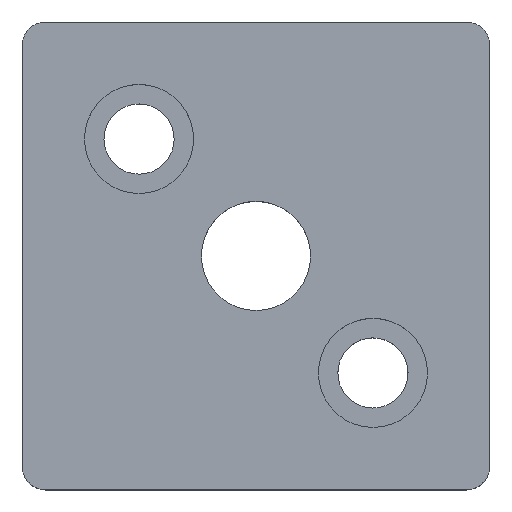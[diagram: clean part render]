
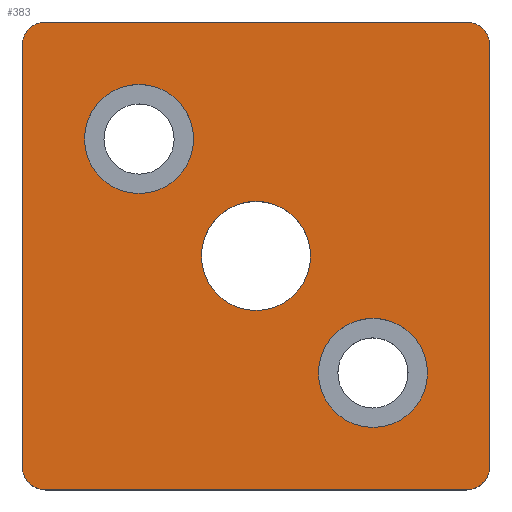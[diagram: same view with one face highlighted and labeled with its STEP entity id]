
A CAD part, top view. The second image highlights one B-rep face of the part: STEP entity #383.
In plain terms, the highlighted planar face has unit normal (0, 0, 1).
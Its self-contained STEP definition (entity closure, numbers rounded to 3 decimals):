
#1 = VERTEX_POINT ( 'NONE', #286 ) ;
#2 = DIRECTION ( 'NONE',  ( 0., 0., 1. ) ) ;
#6 = EDGE_CURVE ( 'NONE', #216, #360, #106, .T. ) ;
#9 = VERTEX_POINT ( 'NONE', #405 ) ;
#10 = EDGE_CURVE ( 'NONE', #242, #237, #420, .T. ) ;
#12 = ORIENTED_EDGE ( 'NONE', *, *, #10, .T. ) ;
#14 = DIRECTION ( 'NONE',  ( -1., 0., 0. ) ) ;
#19 = EDGE_LOOP ( 'NONE', ( #436 ) ) ;
#27 = DIRECTION ( 'NONE',  ( 1., 0., 0. ) ) ;
#29 = LINE ( 'NONE', #321, #361 ) ;
#32 = DIRECTION ( 'NONE',  ( 0., 0., 1. ) ) ;
#36 = CARTESIAN_POINT ( 'NONE',  ( -30., 27., 15. ) ) ;
#37 = DIRECTION ( 'NONE',  ( 0., 0., -1. ) ) ;
#38 = DIRECTION ( 'NONE',  ( 0., 0., 1. ) ) ;
#41 = VERTEX_POINT ( 'NONE', #227 ) ;
#45 = EDGE_CURVE ( 'NONE', #126, #439, #100, .T. ) ;
#47 = AXIS2_PLACEMENT_3D ( 'NONE', #370, #373, #334 ) ;
#52 = DIRECTION ( 'NONE',  ( 0., 1., 0. ) ) ;
#59 = ORIENTED_EDGE ( 'NONE', *, *, #488, .T. ) ;
#64 = DIRECTION ( 'NONE',  ( -1., 0., 0. ) ) ;
#66 = FACE_BOUND ( 'NONE', #214, .T. ) ;
#67 = EDGE_CURVE ( 'NONE', #41, #41, #266, .T. ) ;
#69 = DIRECTION ( 'NONE',  ( 0., -1., 0. ) ) ;
#72 = EDGE_CURVE ( 'NONE', #439, #9, #174, .T. ) ;
#75 = CIRCLE ( 'NONE', #309, 7. ) ;
#76 = PLANE ( 'NONE',  #217 ) ;
#78 = ORIENTED_EDGE ( 'NONE', *, *, #67, .F. ) ;
#92 = EDGE_CURVE ( 'NONE', #419, #419, #490, .T. ) ;
#93 = ORIENTED_EDGE ( 'NONE', *, *, #154, .T. ) ;
#94 = ORIENTED_EDGE ( 'NONE', *, *, #303, .T. ) ;
#100 = LINE ( 'NONE', #205, #499 ) ;
#106 = CIRCLE ( 'NONE', #387, 3. ) ;
#107 = CARTESIAN_POINT ( 'NONE',  ( 30., -27., 15. ) ) ;
#108 = DIRECTION ( 'NONE',  ( 0., 0., 1. ) ) ;
#112 = CARTESIAN_POINT ( 'NONE',  ( 27., 30., 15. ) ) ;
#113 = VERTEX_POINT ( 'NONE', #260 ) ;
#115 = AXIS2_PLACEMENT_3D ( 'NONE', #410, #364, #27 ) ;
#119 = CARTESIAN_POINT ( 'NONE',  ( -8., 15., 15. ) ) ;
#123 = DIRECTION ( 'NONE',  ( 0., 0., 1. ) ) ;
#125 = VECTOR ( 'NONE', #14, 1000. ) ;
#126 = VERTEX_POINT ( 'NONE', #36 ) ;
#135 = EDGE_LOOP ( 'NONE', ( #93, #305, #59, #12, #482, #94, #357, #343 ) ) ;
#136 = CARTESIAN_POINT ( 'NONE',  ( 27., -27., 15. ) ) ;
#146 = CARTESIAN_POINT ( 'NONE',  ( 30., 27., 15. ) ) ;
#154 = EDGE_CURVE ( 'NONE', #9, #216, #29, .T. ) ;
#162 = AXIS2_PLACEMENT_3D ( 'NONE', #342, #123, #356 ) ;
#173 = CARTESIAN_POINT ( 'NONE',  ( -27., -27., 15. ) ) ;
#174 = CIRCLE ( 'NONE', #331, 3. ) ;
#183 = DIRECTION ( 'NONE',  ( -1., 0., 0. ) ) ;
#186 = FACE_OUTER_BOUND ( 'NONE', #135, .T. ) ;
#188 = CIRCLE ( 'NONE', #47, 3. ) ;
#202 = CARTESIAN_POINT ( 'NONE',  ( -30., 30., 15. ) ) ;
#205 = CARTESIAN_POINT ( 'NONE',  ( -30., -30., 15. ) ) ;
#214 = EDGE_LOOP ( 'NONE', ( #78 ) ) ;
#216 = VERTEX_POINT ( 'NONE', #386 ) ;
#217 = AXIS2_PLACEMENT_3D ( 'NONE', #498, #37, #183 ) ;
#226 = VECTOR ( 'NONE', #52, 1000. ) ;
#227 = CARTESIAN_POINT ( 'NONE',  ( 22., -15., 15. ) ) ;
#236 = LINE ( 'NONE', #308, #226 ) ;
#237 = VERTEX_POINT ( 'NONE', #112 ) ;
#242 = VERTEX_POINT ( 'NONE', #146 ) ;
#250 = DIRECTION ( 'NONE',  ( 1., 0., 0. ) ) ;
#260 = CARTESIAN_POINT ( 'NONE',  ( 7., 0., 15. ) ) ;
#265 = LINE ( 'NONE', #202, #125 ) ;
#266 = CIRCLE ( 'NONE', #115, 7. ) ;
#286 = CARTESIAN_POINT ( 'NONE',  ( -27., 30., 15. ) ) ;
#289 = FACE_BOUND ( 'NONE', #19, .T. ) ;
#303 = EDGE_CURVE ( 'NONE', #1, #126, #188, .T. ) ;
#305 = ORIENTED_EDGE ( 'NONE', *, *, #6, .T. ) ;
#308 = CARTESIAN_POINT ( 'NONE',  ( 30., -30., 15. ) ) ;
#309 = AXIS2_PLACEMENT_3D ( 'NONE', #465, #2, #354 ) ;
#321 = CARTESIAN_POINT ( 'NONE',  ( -30., -30., 15. ) ) ;
#322 = FACE_BOUND ( 'NONE', #391, .T. ) ;
#324 = DIRECTION ( 'NONE',  ( -1., 0., 0. ) ) ;
#331 = AXIS2_PLACEMENT_3D ( 'NONE', #173, #32, #324 ) ;
#334 = DIRECTION ( 'NONE',  ( -1., 0., 0. ) ) ;
#342 = CARTESIAN_POINT ( 'NONE',  ( -15., 15., 15. ) ) ;
#343 = ORIENTED_EDGE ( 'NONE', *, *, #72, .T. ) ;
#350 = AXIS2_PLACEMENT_3D ( 'NONE', #453, #108, #368 ) ;
#354 = DIRECTION ( 'NONE',  ( 1., 0., 0. ) ) ;
#356 = DIRECTION ( 'NONE',  ( 1., 0., 0. ) ) ;
#357 = ORIENTED_EDGE ( 'NONE', *, *, #45, .T. ) ;
#358 = CARTESIAN_POINT ( 'NONE',  ( -30., -27., 15. ) ) ;
#360 = VERTEX_POINT ( 'NONE', #107 ) ;
#361 = VECTOR ( 'NONE', #250, 1000. ) ;
#364 = DIRECTION ( 'NONE',  ( 0., 0., 1. ) ) ;
#368 = DIRECTION ( 'NONE',  ( -1., 0., 0. ) ) ;
#370 = CARTESIAN_POINT ( 'NONE',  ( -27., 27., 15. ) ) ;
#373 = DIRECTION ( 'NONE',  ( 0., 0., 1. ) ) ;
#383 = ADVANCED_FACE ( 'NONE', ( #322, #66, #186, #289 ), #76, .F. ) ;
#386 = CARTESIAN_POINT ( 'NONE',  ( 27., -30., 15. ) ) ;
#387 = AXIS2_PLACEMENT_3D ( 'NONE', #136, #38, #64 ) ;
#391 = EDGE_LOOP ( 'NONE', ( #472 ) ) ;
#405 = CARTESIAN_POINT ( 'NONE',  ( -27., -30., 15. ) ) ;
#410 = CARTESIAN_POINT ( 'NONE',  ( 15., -15., 15. ) ) ;
#419 = VERTEX_POINT ( 'NONE', #119 ) ;
#420 = CIRCLE ( 'NONE', #350, 3. ) ;
#436 = ORIENTED_EDGE ( 'NONE', *, *, #455, .F. ) ;
#439 = VERTEX_POINT ( 'NONE', #358 ) ;
#453 = CARTESIAN_POINT ( 'NONE',  ( 27., 27., 15. ) ) ;
#455 = EDGE_CURVE ( 'NONE', #113, #113, #75, .T. ) ;
#465 = CARTESIAN_POINT ( 'NONE',  ( 0., 0., 15. ) ) ;
#472 = ORIENTED_EDGE ( 'NONE', *, *, #92, .F. ) ;
#482 = ORIENTED_EDGE ( 'NONE', *, *, #494, .T. ) ;
#488 = EDGE_CURVE ( 'NONE', #360, #242, #236, .T. ) ;
#490 = CIRCLE ( 'NONE', #162, 7. ) ;
#494 = EDGE_CURVE ( 'NONE', #237, #1, #265, .T. ) ;
#498 = CARTESIAN_POINT ( 'NONE',  ( 0., 0., 15. ) ) ;
#499 = VECTOR ( 'NONE', #69, 1000. ) ;
